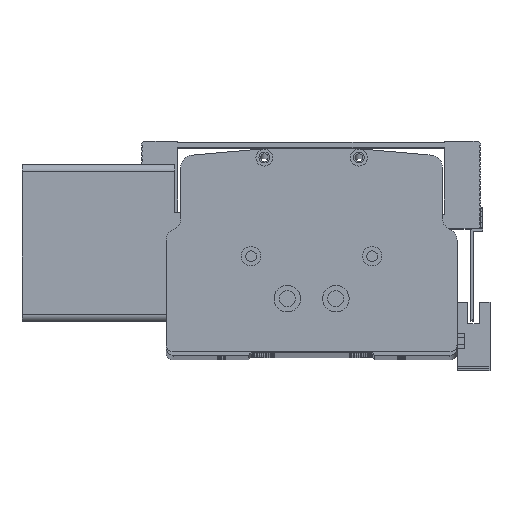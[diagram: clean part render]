
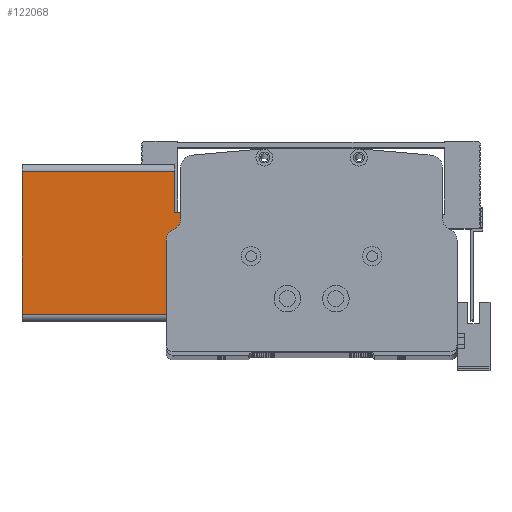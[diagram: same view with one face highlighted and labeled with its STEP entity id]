
A CAD part, top view. The second image highlights one B-rep face of the part: STEP entity #122068.
In plain terms, the highlighted planar face has unit normal (0, 0, 1) as drawn and (-1, 0, 0) by its records, which use the part's own axes.
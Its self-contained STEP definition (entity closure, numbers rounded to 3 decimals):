
#2125 = VECTOR ( 'NONE', #80584, 1000. ) ;
#5564 = LINE ( 'NONE', #91493, #2125 ) ;
#6808 = ORIENTED_EDGE ( 'NONE', *, *, #38377, .T. ) ;
#8258 = CARTESIAN_POINT ( 'NONE',  ( 0., 3., 87. ) ) ;
#16665 = VERTEX_POINT ( 'NONE', #59821 ) ;
#17542 = VECTOR ( 'NONE', #74281, 1000. ) ;
#19236 = DIRECTION ( 'NONE',  ( 0., 0., 1. ) ) ;
#20067 = CARTESIAN_POINT ( 'NONE',  ( 0., 45., 63. ) ) ;
#20209 = VECTOR ( 'NONE', #26855, 1000. ) ;
#22308 = DIRECTION ( 'NONE',  ( 1., 0., 0. ) ) ;
#24770 = CARTESIAN_POINT ( 'NONE',  ( 0., 62., 87. ) ) ;
#26855 = DIRECTION ( 'NONE',  ( 0., -1., 0. ) ) ;
#26868 = EDGE_LOOP ( 'NONE', ( #44699, #129156, #115201, #78122, #44616, #38319, #6808, #128071 ) ) ;
#36888 = VERTEX_POINT ( 'NONE', #24770 ) ;
#37859 = CARTESIAN_POINT ( 'NONE',  ( 0., 80.26, 63. ) ) ;
#38319 = ORIENTED_EDGE ( 'NONE', *, *, #109355, .F. ) ;
#38377 = EDGE_CURVE ( 'NONE', #36888, #85740, #55397, .T. ) ;
#39266 = DIRECTION ( 'NONE',  ( 0., -1., 0. ) ) ;
#39513 = EDGE_CURVE ( 'NONE', #58958, #68823, #46464, .T. ) ;
#41209 = CARTESIAN_POINT ( 'NONE',  ( 0., 45., 73. ) ) ;
#44616 = ORIENTED_EDGE ( 'NONE', *, *, #74937, .T. ) ;
#44699 = ORIENTED_EDGE ( 'NONE', *, *, #39513, .F. ) ;
#46464 = LINE ( 'NONE', #20067, #17542 ) ;
#48797 = CARTESIAN_POINT ( 'NONE',  ( 0., 62., 73. ) ) ;
#49087 = CARTESIAN_POINT ( 'NONE',  ( 0., 62., 87. ) ) ;
#49116 = LINE ( 'NONE', #8258, #74660 ) ;
#49869 = CARTESIAN_POINT ( 'NONE',  ( 0., 3., 0. ) ) ;
#50169 = CARTESIAN_POINT ( 'NONE',  ( 0., 0., 87. ) ) ;
#55397 = LINE ( 'NONE', #49087, #138575 ) ;
#58958 = VERTEX_POINT ( 'NONE', #99815 ) ;
#59137 = VERTEX_POINT ( 'NONE', #49869 ) ;
#59821 = CARTESIAN_POINT ( 'NONE',  ( 0., 3., 87. ) ) ;
#60065 = DIRECTION ( 'NONE',  ( 0., 0., -1. ) ) ;
#68823 = VERTEX_POINT ( 'NONE', #41209 ) ;
#69254 = EDGE_CURVE ( 'NONE', #88703, #58958, #106562, .T. ) ;
#70009 = FACE_OUTER_BOUND ( 'NONE', #26868, .T. ) ;
#70746 = AXIS2_PLACEMENT_3D ( 'NONE', #76089, #22308, #98377 ) ;
#74281 = DIRECTION ( 'NONE',  ( 0., 0., 1. ) ) ;
#74660 = VECTOR ( 'NONE', #19236, 1000. ) ;
#74937 = EDGE_CURVE ( 'NONE', #59137, #16665, #49116, .T. ) ;
#75426 = EDGE_CURVE ( 'NONE', #68823, #85740, #109992, .T. ) ;
#76089 = CARTESIAN_POINT ( 'NONE',  ( 0., 0., 87. ) ) ;
#77754 = VECTOR ( 'NONE', #125249, 1000. ) ;
#78122 = ORIENTED_EDGE ( 'NONE', *, *, #82154, .T. ) ;
#80584 = DIRECTION ( 'NONE',  ( 0., 0., -1. ) ) ;
#81614 = VECTOR ( 'NONE', #39266, 1000. ) ;
#82154 = EDGE_CURVE ( 'NONE', #99718, #59137, #132361, .T. ) ;
#83757 = CARTESIAN_POINT ( 'NONE',  ( 0., 80.26, 73. ) ) ;
#85740 = VERTEX_POINT ( 'NONE', #48797 ) ;
#88703 = VERTEX_POINT ( 'NONE', #109334 ) ;
#91493 = CARTESIAN_POINT ( 'NONE',  ( 0., 62., 87. ) ) ;
#92056 = CARTESIAN_POINT ( 'NONE',  ( 0., 0., 0. ) ) ;
#98377 = DIRECTION ( 'NONE',  ( 0., 0., -1. ) ) ;
#99718 = VERTEX_POINT ( 'NONE', #120508 ) ;
#99815 = CARTESIAN_POINT ( 'NONE',  ( 0., 45., 63. ) ) ;
#105536 = DIRECTION ( 'NONE',  ( 0., 1., 0. ) ) ;
#106562 = LINE ( 'NONE', #37859, #77754 ) ;
#109334 = CARTESIAN_POINT ( 'NONE',  ( 0., 62., 63. ) ) ;
#109355 = EDGE_CURVE ( 'NONE', #36888, #16665, #139165, .T. ) ;
#109992 = LINE ( 'NONE', #83757, #135451 ) ;
#115201 = ORIENTED_EDGE ( 'NONE', *, *, #128966, .T. ) ;
#119777 = PLANE ( 'NONE',  #70746 ) ;
#120508 = CARTESIAN_POINT ( 'NONE',  ( 0., 62., 0. ) ) ;
#122068 = ADVANCED_FACE ( 'NONE', ( #70009 ), #119777, .F. ) ;
#125249 = DIRECTION ( 'NONE',  ( 0., -1., 0. ) ) ;
#128071 = ORIENTED_EDGE ( 'NONE', *, *, #75426, .F. ) ;
#128966 = EDGE_CURVE ( 'NONE', #88703, #99718, #5564, .T. ) ;
#129156 = ORIENTED_EDGE ( 'NONE', *, *, #69254, .F. ) ;
#132361 = LINE ( 'NONE', #92056, #20209 ) ;
#135451 = VECTOR ( 'NONE', #105536, 1000. ) ;
#138575 = VECTOR ( 'NONE', #60065, 1000. ) ;
#139165 = LINE ( 'NONE', #50169, #81614 ) ;
